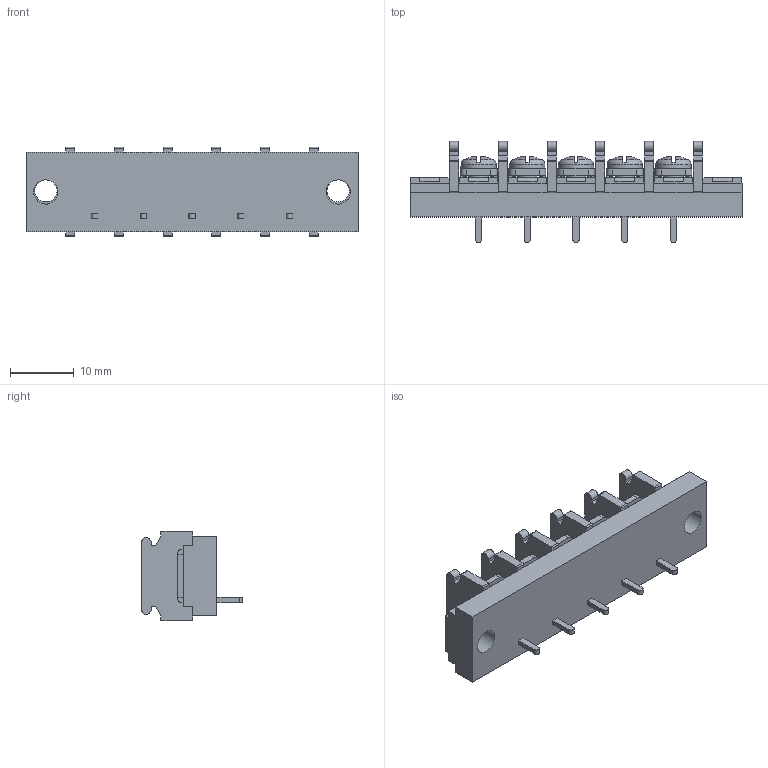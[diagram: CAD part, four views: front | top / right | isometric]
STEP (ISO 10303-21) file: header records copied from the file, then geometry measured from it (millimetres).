
FILE_DESCRIPTION(/* description */ ('Alibre Inc.'),/* implementation_level */ '2;1');
FILE_NAME(/* name */ 'export0',/* time_stamp */ '2015-10-23T19:36:17+09:00',/* author */ (''),/* organization */ (''),/* preprocessor_version */ 'ST-DEVELOPER v14',/* originating_system */ 'Alibre',/* authorisation */ '');
FILE_SCHEMA (('CONFIG_CONTROL_DESIGN'));
Length unit declared in the file: centimetre
Products named in the file (1): ID_1
Bounding box: 51.92 x 15.8 x 14 mm (x, y, z)
Volume: 4495 mm3; surface area: 4307.3 mm2
Topology: 1 solids, 17 shells, 1022 faces, 2765 edges, 1819 vertices
Faces by surface type: plane 784, bspline 104, cylinder 94, cone 20, torus 10, sphere 10
Full cylindrical faces by diameter (mm): 3 x5, 3.5 x2, 3.8 x2, 5.5 x5
Entity records: 30568 total; most frequent: CARTESIAN_POINT 6812, ORIENTED_EDGE 5434, DIRECTION 3689, EDGE_CURVE 2717, VECTOR 2012, LINE 2012, VERTEX_POINT 1795, AXIS2_PLACEMENT_3D 1197
